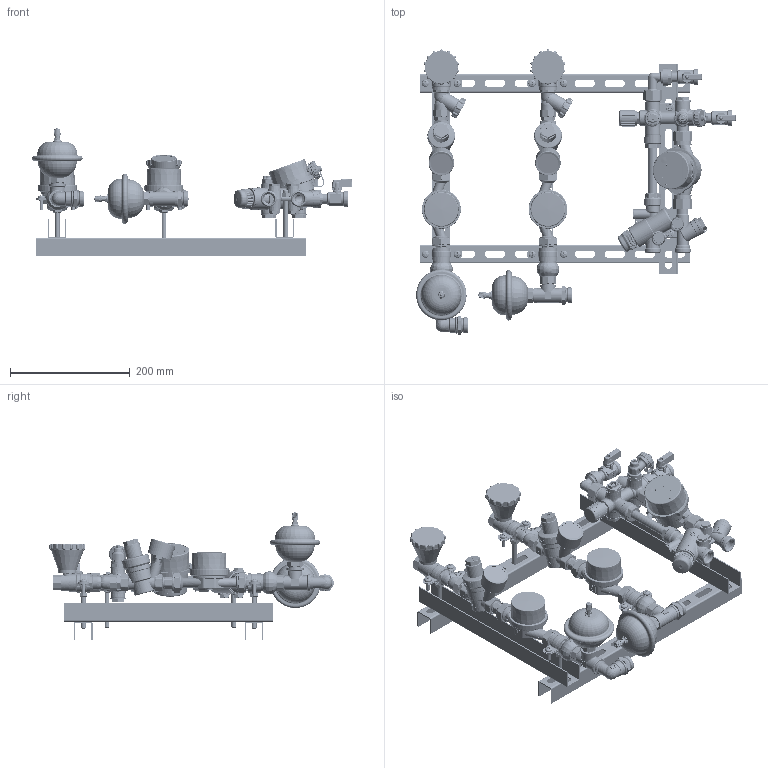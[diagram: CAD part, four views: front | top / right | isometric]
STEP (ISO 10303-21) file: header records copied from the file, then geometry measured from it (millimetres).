
FILE_DESCRIPTION(('STEP AP242'), '1');
FILE_NAME('覆.494726.031.000 捘 - VT.LB.HD.MW', '', ('UNSPECIFIED'), ('UNSPECIFIED'), 'C3D Converter', 'C3D Toolkit', '');
FILE_SCHEMA(('AP242_MANAGED_MODEL_BASED_3D_ENGINEERING_MIM_LF { 1 0 10303 442 1 1 4 }'));
Length unit declared in the file: millimetre
Products named in the file (255): ВР.494726.031.000 СБ; ВР.494726.008.001-01; ВР.407262.001.000 СБ; ВР.407262.001.002 СБ; ВР.407262.001.002.001 СБ; ВР.731464.001; ВР.407262.001.002.001.001 СБ; ВР.711151.002; ВР.713121.001; ВР.407262.001.002.002 СБ; ВР.753192.011; ВР.715113.001; ВР.711141.015; ВР.407262.001.002.003 СБ; ВР.753181.004; ВР.305323.014; ВР.711242.001; ВР.711141.016; ВР.752676.001; ВР.753192.012; ВР.407262.001.001 СБ; ВР.753192.013; ВР.711144.001; ВР.753191.014; ВР.407262.001.001.001 СБ; ВР.753181.005; ВР.711141.017; ВР.753181.006; ВР.713321.001; ВР.711323.001; ВР.715111.002; ВР.753181.007; ВР.753181.008; ВР.722551.001; ВР.753182.012; ВР.711642.001; ВР.711642.001-01; ВР.711642.001-02; ВР.711642.001-03; ВР.711642.001-04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
Assembly tree (317 placements, depth 9):
  ВР.494726.031.000 СБ
    ВР.494726.008.001-01
      ВР.407262.001.000 СБ  x2
        ВР.407262.001.002 СБ
          ВР.407262.001.002.001 СБ
            ВР.731464.001
            ВР.407262.001.002.001.001 СБ
              ВР.711151.002
              ВР.713121.001
          ВР.407262.001.002.002 СБ
            ВР.753192.011
              ВР.715113.001
            ВР.711141.015
          ВР.407262.001.002.003 СБ
            ВР.753181.004
            ВР.407262.001.002.001.001 СБ
              ВР.711151.002
              ВР.713121.001
          ВР.305323.014
          (unnamed)
          ВР.711242.001
          ВР.711141.016
          ВР.752676.001
        ВР.753192.012
        ВР.407262.001.001 СБ
          ВР.753192.013
          ВР.711144.001
          ВР.753191.014
          ВР.407262.001.001.001 СБ
            ВР.753181.005
            ВР.711141.017
          (unnamed)
          ВР.753181.006
          ВР.713321.001
          ВР.711323.001
          ВР.715111.002  x2
          ВР.753181.007
          ВР.753181.008
          ВР.722551.001
          ВР.753182.012  x7
          ВР.711642.001
          ВР.711642.001-01
          ВР.711642.001-02
          ВР.711642.001-03
          ВР.711642.001-04
          ВР.711642.001-05
          ВР.711642.002
          ВР.711642.003
          (unnamed)
          ВР.753191.013
        ВР.302638.003.000 СБ
          ВР.753136.002
          ВР.758422.017
          ВР.305323.012
        ВР.302638.004.000 СБ
          ВР.753137.012
          ВР.758422.017
          ВР.305323.012
          ВР.494149.001.000 СБ
            ВР.753182.013
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Bounding box: 533.82 x 476 x 215.03 mm (x, y, z)
Volume: 1609175.8 mm3; surface area: 1307144.6 mm2
Topology: 376 solids, 379 shells, 29157 faces, 78691 edges, 51776 vertices
Faces by surface type: plane 11575, extrusion 7672, cylinder 5972, cone 1759, bspline 1196, torus 887, sphere 96
Full cylindrical faces by diameter (mm): 0.4 x4, 0.6 x23, 0.7 x2, 0.8 x12, 1 x10, 1.1 x308, 1.2 x23, 1.3 x15, 1.5 x53, 1.55 x2, 1.6 x23, 1.66 x4, 1.7 x3, 1.8 x10, 1.9 x5, 2 x35, 2.1 x4, 2.2 x11, 2.3 x3, 2.4 x2, 2.5 x13, 2.6 x1, 2.7 x2, 2.8 x1, 3 x86, 3.2 x2, 3.242 x2, 3.4 x35, 3.5 x14, 3.6 x5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
Entity records: 786983 total; most frequent: CARTESIAN_POINT 376707, ORIENTED_EDGE 85384, DIRECTION 65557, EDGE_CURVE 42697, VERTEX_POINT 28988, VECTOR 23587, AXIS2_PLACEMENT_3D 20985, EDGE_LOOP 20096
